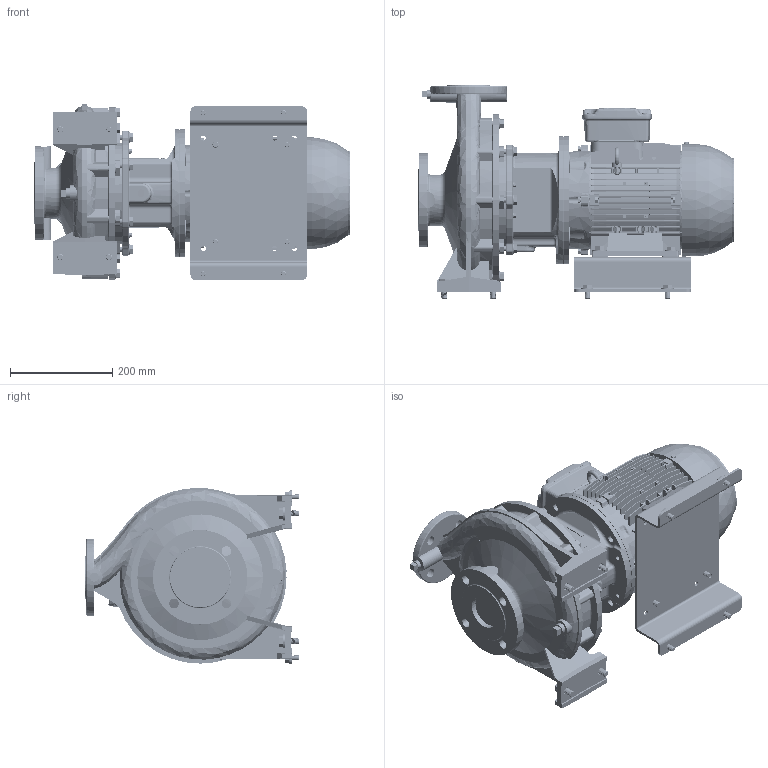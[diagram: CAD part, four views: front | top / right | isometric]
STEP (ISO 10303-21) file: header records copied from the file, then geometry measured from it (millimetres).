
FILE_DESCRIPTION (( 'STEP AP214' ), '1' );
FILE_NAME ('GSD4 40-250_4.0_(112M)_W21.STEP', '2026-06-18T05:52:56', ( '' ), ( '' ), 'SwSTEP 2.0', 'SolidWorks 2024', '' );
FILE_SCHEMA (( 'AUTOMOTIVE_DESIGN' ));
Length unit declared in the file: millimetre
Products named in the file (12): GSD4 40-250_4.0_(112M)_W21; Parametric Flat Washer_M10; Parametric bolt and washer_SFT-A249B; 112M ALIE3_W21T_B35; 40-250-112M_ﾃﾞﾌｫﾙﾄ; Parametric Flat Washer_M12; Parametric bolt_SFT-A249B; Parametric bolt_SFT-A253B; 140_178 x 68 BP - 271472191; Parametric bolt and washer_SFT-A253B; Parametric bolt and washer_SFT-A299B; Parametric bolt_SFT-A299B
Assembly tree (21 placements, depth 3):
  GSD4 40-250_4.0_(112M)_W21
    40-250-112M_ﾃﾞﾌｫﾙﾄ
    112M ALIE3_W21T_B35
    140_178 x 68 BP - 271472191
    Parametric bolt and washer_SFT-A249B  x4
      Parametric bolt_SFT-A249B
      Parametric Flat Washer_M10
    Parametric bolt and washer_SFT-A253B  x4
      Parametric bolt_SFT-A253B
      Parametric Flat Washer_M10
    Parametric bolt and washer_SFT-A299B  x4
      Parametric bolt_SFT-A299B
      Parametric Flat Washer_M12
Bounding box: 620.1 x 418 x 344.87 mm (x, y, z)
Volume: 22169834.3 mm3; surface area: 1795478.6 mm2
Topology: 47 solids, 49 shells, 5423 faces, 14378 edges, 9328 vertices
Faces by surface type: plane 2782, cylinder 1331, bspline 508, cone 419, torus 372, sphere 11
Entity records: 212473 total; most frequent: CARTESIAN_POINT 95488, ORIENTED_EDGE 26140, DIRECTION 21409, EDGE_CURVE 13070, VERTEX_POINT 8488, VECTOR 7245, LINE 7245, AXIS2_PLACEMENT_3D 7082
